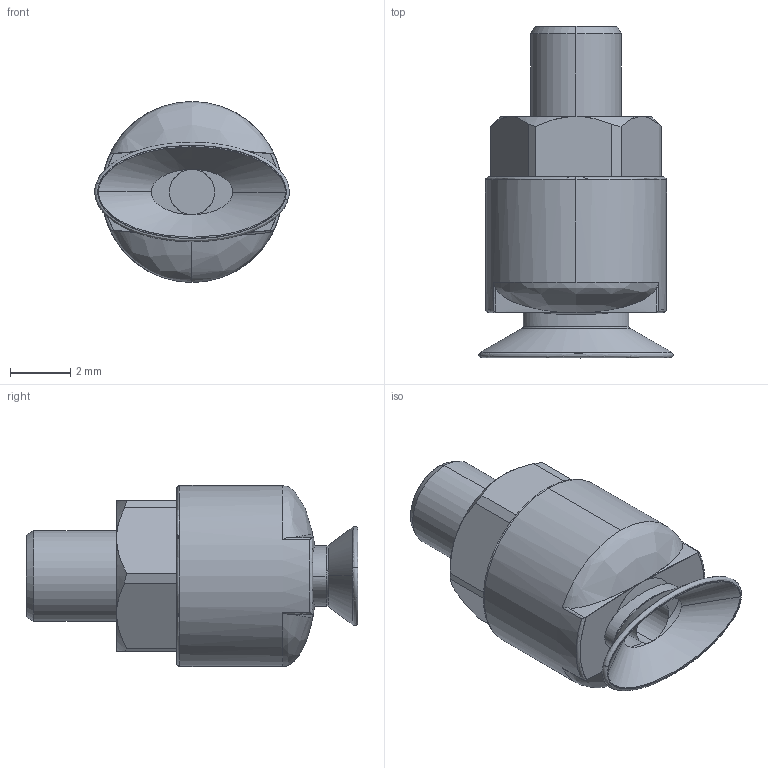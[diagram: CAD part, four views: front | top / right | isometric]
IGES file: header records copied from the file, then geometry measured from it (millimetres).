
Start section: SolidWorks IGES file using analytic representation for surfaces
Global section: file name: E:\eins\20070625石神\シュマルツ\SSGONシリーズ\183933.IGS; native system: SolidWorks 2006 by SolidWorks Corporation; preprocessor: SolidWorks 2006 by SolidWorks Corporation; author: CAD54; date: 070625.171250; units: millimetre
Bounding box: 6.45 x 11 x 6 mm (x, y, z)
Surface area: 254.3 mm2 (no closed solid volume)
Topology: 0 solids, 0 shells, 65 faces, 751 edges, 749 vertices
Faces by surface type: bspline 47, revolution 18
